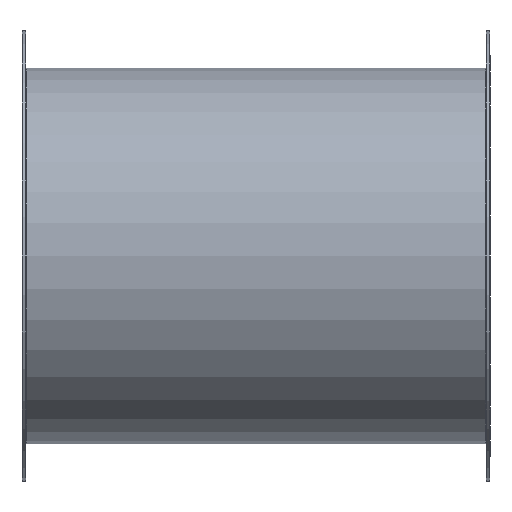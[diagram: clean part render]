
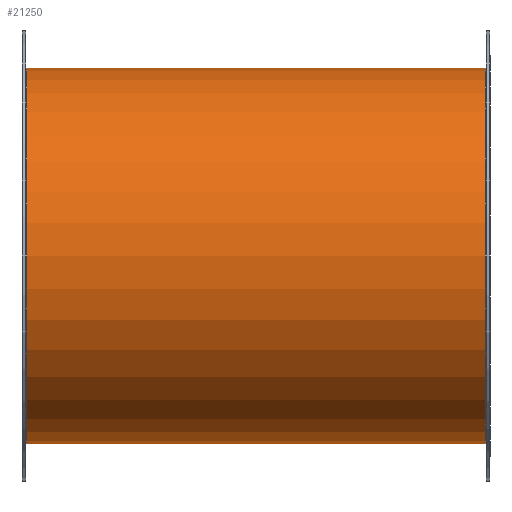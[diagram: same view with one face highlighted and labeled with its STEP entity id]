
A CAD part, front view. The second image highlights one B-rep face of the part: STEP entity #21250.
In plain terms, the highlighted cylindrical face has radius 160.5 mm (diameter 321 mm), a partial arc.
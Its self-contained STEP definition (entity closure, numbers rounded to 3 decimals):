
#854 = DIRECTION ( 'NONE',  ( -1., 0., 0. ) ) ;
#1155 = VERTEX_POINT ( 'NONE', #1972 ) ;
#1471 = CIRCLE ( 'NONE', #8488, 160.5 ) ;
#1908 = CARTESIAN_POINT ( 'NONE',  ( -184.447, 0., 0. ) ) ;
#1972 = CARTESIAN_POINT ( 'NONE',  ( -196., 0., -160.5 ) ) ;
#2254 = FACE_OUTER_BOUND ( 'NONE', #16863, .T. ) ;
#2461 = AXIS2_PLACEMENT_3D ( 'NONE', #11131, #3714, #11285 ) ;
#3714 = DIRECTION ( 'NONE',  ( -1., 0., 0. ) ) ;
#4284 = VERTEX_POINT ( 'NONE', #17481 ) ;
#5658 = CIRCLE ( 'NONE', #2461, 160.5 ) ;
#7592 = DIRECTION ( 'NONE',  ( -1., 0., 0. ) ) ;
#7670 = CARTESIAN_POINT ( 'NONE',  ( -196., 0., 0. ) ) ;
#7828 = DIRECTION ( 'NONE',  ( -1., 0., 0. ) ) ;
#7915 = DIRECTION ( 'NONE',  ( 0., 0., 1. ) ) ;
#8369 = AXIS2_PLACEMENT_3D ( 'NONE', #1908, #9413, #15072 ) ;
#8488 = AXIS2_PLACEMENT_3D ( 'NONE', #7670, #7592, #7915 ) ;
#9413 = DIRECTION ( 'NONE',  ( -1., 0., 0. ) ) ;
#9455 = EDGE_CURVE ( 'NONE', #4284, #23722, #12289, .T. ) ;
#9733 = CARTESIAN_POINT ( 'NONE',  ( -184.447, 0., 160.5 ) ) ;
#11131 = CARTESIAN_POINT ( 'NONE',  ( 196., 0., 0. ) ) ;
#11285 = DIRECTION ( 'NONE',  ( 0., 0., 1. ) ) ;
#11994 = CARTESIAN_POINT ( 'NONE',  ( 196., 0., -160.5 ) ) ;
#12289 = LINE ( 'NONE', #9733, #18771 ) ;
#15072 = DIRECTION ( 'NONE',  ( 0., 0., 1. ) ) ;
#15627 = VECTOR ( 'NONE', #854, 1000. ) ;
#15699 = VERTEX_POINT ( 'NONE', #11994 ) ;
#16863 = EDGE_LOOP ( 'NONE', ( #21344, #19495, #22096, #19636 ) ) ;
#17047 = EDGE_CURVE ( 'NONE', #15699, #4284, #5658, .T. ) ;
#17481 = CARTESIAN_POINT ( 'NONE',  ( 196., 0., 160.5 ) ) ;
#18771 = VECTOR ( 'NONE', #7828, 1000. ) ;
#18808 = EDGE_CURVE ( 'NONE', #15699, #1155, #24217, .T. ) ;
#19091 = EDGE_CURVE ( 'NONE', #1155, #23722, #1471, .T. ) ;
#19495 = ORIENTED_EDGE ( 'NONE', *, *, #17047, .T. ) ;
#19636 = ORIENTED_EDGE ( 'NONE', *, *, #19091, .F. ) ;
#20854 = CYLINDRICAL_SURFACE ( 'NONE', #8369, 160.5 ) ;
#21250 = ADVANCED_FACE ( 'NONE', ( #2254 ), #20854, .T. ) ;
#21344 = ORIENTED_EDGE ( 'NONE', *, *, #18808, .F. ) ;
#22096 = ORIENTED_EDGE ( 'NONE', *, *, #9455, .T. ) ;
#22801 = CARTESIAN_POINT ( 'NONE',  ( -196., 0., 160.5 ) ) ;
#23516 = CARTESIAN_POINT ( 'NONE',  ( -184.447, 0., -160.5 ) ) ;
#23722 = VERTEX_POINT ( 'NONE', #22801 ) ;
#24217 = LINE ( 'NONE', #23516, #15627 ) ;
